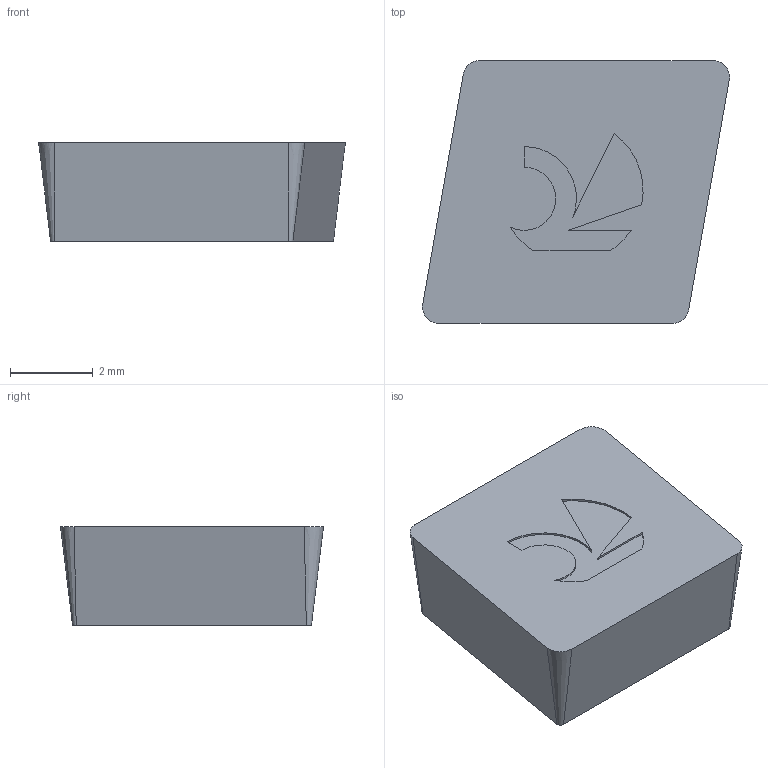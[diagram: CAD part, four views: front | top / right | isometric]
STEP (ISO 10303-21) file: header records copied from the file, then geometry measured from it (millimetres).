
FILE_DESCRIPTION(('no description'),'unknown implementation level');
FILE_NAME('solidBjuGzgH0VvKdj3SYZDDAmF0mTpc_1.STP',' ',('CIMSOURCE GmbH'),('CADClick - KiM GmbH - www.kimweb.de'),'unknown preprocess','ACIS','unknown authorization');
FILE_SCHEMA(('automotive_design'));
Length unit declared in the file: millimetre
Products named in the file (1): CUT
Bounding box: 7.42 x 6.35 x 2.38 mm (x, y, z)
Volume: 88.4 mm3; surface area: 133.2 mm2
Topology: 1 solids, 1 shells, 22 faces, 57 edges, 38 vertices
Faces by surface type: plane 12, cylinder 6, cone 4
Entity records: 1366 total; most frequent: DIRECTION 127, CARTESIAN_POINT 120, STYLED_ITEM 118, PRESENTATION_STYLE_ASSIGNMENT 118, COLOUR_RGB 118, ORIENTED_EDGE 114, EDGE_CURVE 57, CURVE_STYLE 57
